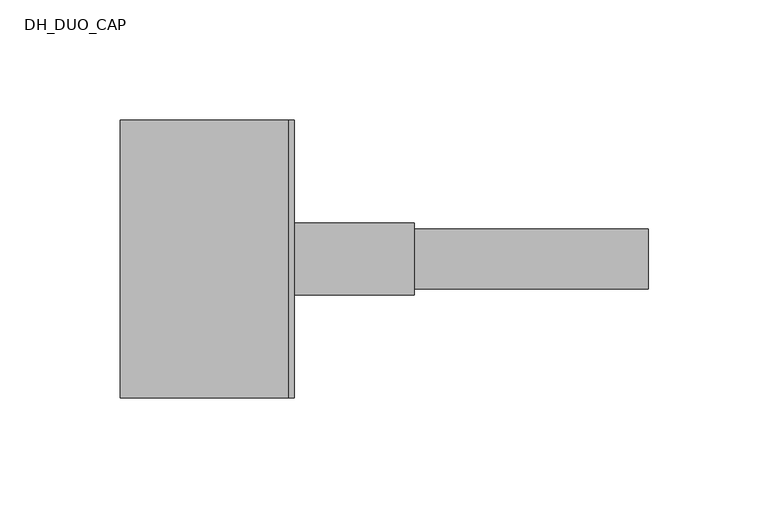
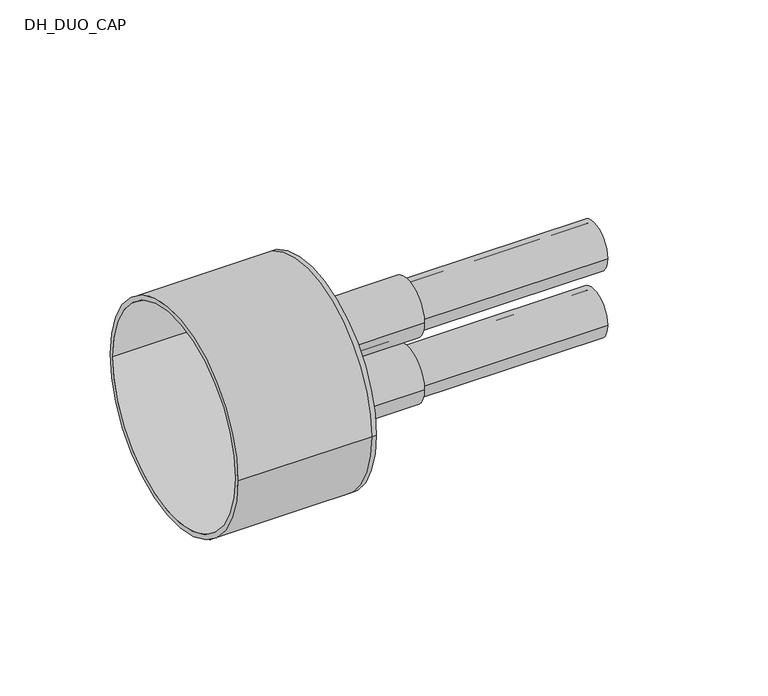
"""IFC4 building model written with IfcOpenShell, lengths in millimetres: pipe fitting geometry, DH_DUO_CAP : RAUTHERMEX DUO + 11 Heating - Rubber Cap."""

from ifc_helpers import new_model, si_unit, point, frame, frame_2d, origin, place, context, project, spatial, polyline, circle_curve, trimmed, segment, composite_curve, outline, extrude, source, transform, mapped, element, save
from ifc_brep_helpers import plane_surface, cylinder_surface, revolved_surface, advanced_brep


def dh_duo_cap_21493ab1(model_context):
    return source(origin(), model_context, "Body", "SolidModel", [
        extrude(outline(composite_curve([segment(trimmed(circle_curve(frame_2d((0.0, -18.5)), 12.5), [point((-12.5, -18.5))], [point((12.5, -18.5))], False, "CARTESIAN"), True, "CONTINUOUS"), segment(trimmed(circle_curve(frame_2d((0.0, -18.5)), 12.5), [point((12.5, -18.5))], [point((-12.5, -18.5))], False, "CARTESIAN"), True, "CONTINUOUS")], self_intersect=False), holes=[composite_curve([segment(trimmed(circle_curve(frame_2d((0.0, -18.5)), 10.2), [point((-10.2, -18.5))], [point((10.2, -18.5))], True, "CARTESIAN"), True, "CONTINUOUS"), segment(trimmed(circle_curve(frame_2d((0.0, -18.5)), 10.2), [point((10.2, -18.5))], [point((-10.2, -18.5))], True, "CARTESIAN"), True, "CONTINUOUS")], self_intersect=False)]), frame((0.0, 0.0, 0.0), z_axis=(1.0, 0.0, 0.0), x_axis=(0.0, 1.0, 0.0)), (0.0, 0.0, 1.0), 150.0),
        extrude(outline(composite_curve([segment(trimmed(circle_curve(frame_2d((0.0, 18.5)), 12.5), [point((-12.5, 18.5))], [point((12.5, 18.5))], False, "CARTESIAN"), True, "CONTINUOUS"), segment(trimmed(circle_curve(frame_2d((0.0, 18.5)), 12.5), [point((12.5, 18.5))], [point((-12.5, 18.5))], False, "CARTESIAN"), True, "CONTINUOUS")], self_intersect=False), holes=[composite_curve([segment(trimmed(circle_curve(frame_2d((0.0, 18.5)), 10.2), [point((-10.2, 18.5))], [point((10.2, 18.5))], True, "CARTESIAN"), True, "CONTINUOUS"), segment(trimmed(circle_curve(frame_2d((0.0, 18.5)), 10.2), [point((10.2, 18.5))], [point((-10.2, 18.5))], True, "CARTESIAN"), True, "CONTINUOUS")], self_intersect=False)]), frame((0.0, 0.0, 0.0), z_axis=(1.0, 0.0, 0.0), x_axis=(0.0, 1.0, 0.0)), (0.0, 0.0, 1.0), 150.0),
        advanced_brep(
        [(-70.0, -58.0, 0.0), (-70.0, 58.0, 0.0), (-70.0, -55.5, 0.0), (-70.0, 55.5, 0.0), (0.0, -55.5, 0.0), (0.0, 55.5, 0.0), (0.0, -58.0, 0.0), (0.0, 58.0, 0.0), (0.0, 12.5, 18.5), (0.0, -12.5, 18.5), (0.0, 12.5, -18.5), (0.0, -12.5, -18.5), (2.5, -58.0, 0.0), (2.5, 58.0, 0.0), (2.5, -12.5, 18.5), (2.5, 12.5, 18.5), (2.5, -12.5, -18.5), (2.5, 12.5, -18.5)],
        [
            (0, 1, circle_curve(frame((-70.0, 0.0, 0.0), z_axis=(-1.0, 0.0, 0.0), x_axis=(0.0, 1.0, 0.0)), 58.0)),
            (1, 0, circle_curve(frame((-70.0, 0.0, 0.0), z_axis=(-1.0, 0.0, 0.0), x_axis=(0.0, 1.0, 0.0)), 58.0)),
            (2, 3, circle_curve(frame((-70.0, 0.0, 0.0), z_axis=(1.0, 0.0, 0.0), x_axis=(0.0, 1.0, 0.0)), 55.5)),
            (3, 2, circle_curve(frame((-70.0, 0.0, 0.0), z_axis=(1.0, 0.0, 0.0), x_axis=(0.0, 1.0, 0.0)), 55.5)),
            (2, 4),
            (4, 5, circle_curve(frame((0.0, 0.0, 0.0), z_axis=(1.0, 0.0, 0.0), x_axis=(0.0, 1.0, 0.0)), 55.5)),
            (5, 3),
            (5, 4, circle_curve(frame((0.0, 0.0, 0.0), z_axis=(1.0, 0.0, 0.0), x_axis=(0.0, 1.0, 0.0)), 55.5)),
            (0, 6),
            (6, 7, circle_curve(frame((0.0, 0.0, 0.0), z_axis=(-1.0, 0.0, 0.0), x_axis=(0.0, 1.0, 0.0)), 58.0)),
            (7, 1),
            (7, 6, circle_curve(frame((0.0, 0.0, 0.0), z_axis=(-1.0, 0.0, 0.0), x_axis=(0.0, 1.0, 0.0)), 58.0)),
            (8, 9, circle_curve(frame((0.0, 0.0, 18.5), z_axis=(1.0, 0.0, 0.0), x_axis=(0.0, 1.0, 0.0)), 12.5)),
            (9, 8, circle_curve(frame((0.0, 0.0, 18.5), z_axis=(1.0, 0.0, 0.0), x_axis=(0.0, 1.0, 0.0)), 12.5)),
            (10, 11, circle_curve(frame((0.0, 0.0, -18.5), z_axis=(1.0, 0.0, 0.0), x_axis=(0.0, 1.0, 0.0)), 12.5)),
            (11, 10, circle_curve(frame((0.0, 0.0, -18.5), z_axis=(1.0, 0.0, 0.0), x_axis=(0.0, 1.0, 0.0)), 12.5)),
            (12, 13, circle_curve(frame((2.5, 0.0, 0.0), z_axis=(1.0, 0.0, 0.0), x_axis=(0.0, 1.0, 0.0)), 58.0)),
            (13, 12, circle_curve(frame((2.5, 0.0, 0.0), z_axis=(1.0, 0.0, 0.0), x_axis=(0.0, 1.0, 0.0)), 58.0)),
            (14, 15, circle_curve(frame((2.5, 0.0, 18.5), z_axis=(-1.0, 0.0, 0.0), x_axis=(0.0, 1.0, 0.0)), 12.5)),
            (15, 14, circle_curve(frame((2.5, 0.0, 18.5), z_axis=(-1.0, 0.0, 0.0), x_axis=(0.0, 1.0, 0.0)), 12.5)),
            (16, 17, circle_curve(frame((2.5, 0.0, -18.5), z_axis=(-1.0, 0.0, 0.0), x_axis=(0.0, 1.0, 0.0)), 12.5)),
            (17, 16, circle_curve(frame((2.5, 0.0, -18.5), z_axis=(-1.0, 0.0, 0.0), x_axis=(0.0, 1.0, 0.0)), 12.5)),
            (13, 7),
            (6, 12),
            (8, 15),
            (14, 9),
            (10, 17),
            (16, 11),
        ],
        [
            plane_surface(frame((-70.0, 0.0, 0.0), z_axis=(-1.0, 0.0, 0.0), x_axis=(0.0, 0.0, 1.0))),
            revolved_surface(polyline([(0.0, 55.5, 0.0), (-70.0, 55.5, 0.0)]), (-70.0, 0.0, 0.0), (1.0, 0.0, 0.0)),
            cylinder_surface(frame((-70.0, 0.0, 0.0), z_axis=(-1.0, 0.0, 0.0), x_axis=(0.0, 1.0, 0.0)), 58.0),
            plane_surface(frame((0.0, 0.0, 0.0), z_axis=(-1.0, 0.0, 0.0), x_axis=(0.0, 0.0, 1.0))),
            plane_surface(frame((2.5, 0.0, 0.0), z_axis=(1.0, 0.0, 0.0), x_axis=(0.0, 0.0, 1.0))),
            cylinder_surface(frame((0.0, 0.0, 0.0), z_axis=(-1.0, 0.0, 0.0), x_axis=(0.0, 1.0, 0.0)), 58.0),
            revolved_surface(polyline([(0.0, 12.5, 18.5), (2.5, 12.5, 18.5)]), (0.0, 0.0, 18.5), (-1.0, 0.0, 0.0)),
            revolved_surface(polyline([(0.0, 12.5, -18.5), (2.5, 12.5, -18.5)]), (0.0, 0.0, -18.5), (-1.0, 0.0, 0.0)),
        ],
        [
            (0, [[1, 2], [3, 4]]),
            (1, [[-3, 5, 6, 7]]),
            (1, [[-4, -7, 8, -5]]),
            (2, [[-1, 9, 10, 11]]),
            (2, [[-2, -11, 12, -9]]),
            (3, [[-6, -8], [13, 14], [15, 16]]),
            (4, [[17, 18], [19, 20], [21, 22]]),
            (5, [[-18, 23, -10, 24]]),
            (5, [[-17, -24, -12, -23]]),
            (6, [[25, -19, 26, -13]]),
            (6, [[-25, -14, -26, -20]]),
            (7, [[27, -21, 28, -15]]),
            (7, [[-27, -16, -28, -22]]),
        ],
    ),
        extrude(outline(composite_curve([segment(trimmed(circle_curve(frame_2d((0.0, -18.5)), 15.0), [point((-15.0, -18.5))], [point((15.0, -18.5))], False, "CARTESIAN"), True, "CONTINUOUS"), segment(trimmed(circle_curve(frame_2d((0.0, -18.5)), 15.0), [point((15.0, -18.5))], [point((-15.0, -18.5))], False, "CARTESIAN"), True, "CONTINUOUS")], self_intersect=False), holes=[composite_curve([segment(trimmed(circle_curve(frame_2d((0.0, -18.5)), 12.5), [point((-12.5, -18.5))], [point((12.5, -18.5))], True, "CARTESIAN"), True, "CONTINUOUS"), segment(trimmed(circle_curve(frame_2d((0.0, -18.5)), 12.5), [point((12.5, -18.5))], [point((-12.5, -18.5))], True, "CARTESIAN"), True, "CONTINUOUS")], self_intersect=False)]), frame((2.5, 0.0, 0.0), z_axis=(1.0, 0.0, 0.0), x_axis=(0.0, 1.0, 0.0)), (0.0, 0.0, 1.0), 50.0),
        extrude(outline(composite_curve([segment(trimmed(circle_curve(frame_2d((0.0, 18.5)), 15.0), [point((-15.0, 18.5))], [point((15.0, 18.5))], False, "CARTESIAN"), True, "CONTINUOUS"), segment(trimmed(circle_curve(frame_2d((0.0, 18.5)), 15.0), [point((15.0, 18.5))], [point((-15.0, 18.5))], False, "CARTESIAN"), True, "CONTINUOUS")], self_intersect=False), holes=[composite_curve([segment(trimmed(circle_curve(frame_2d((0.0, 18.5)), 12.5), [point((-12.5, 18.5))], [point((12.5, 18.5))], True, "CARTESIAN"), True, "CONTINUOUS"), segment(trimmed(circle_curve(frame_2d((0.0, 18.5)), 12.5), [point((12.5, 18.5))], [point((-12.5, 18.5))], True, "CARTESIAN"), True, "CONTINUOUS")], self_intersect=False)]), frame((2.5, 0.0, 0.0), z_axis=(1.0, 0.0, 0.0), x_axis=(0.0, 1.0, 0.0)), (0.0, 0.0, 1.0), 50.0),
    ])


if __name__ == "__main__":
    model = new_model("IFC4")
    model_context = context("Model", 3, world=origin())
    ifc_project = project(units=[si_unit("LENGTHUNIT", "METRE", prefix="MILLI")], contexts=[model_context])
    site = spatial("IfcSite", under=ifc_project)
    building = spatial("IfcBuilding", under=site)
    placement = place(None, origin())
    dh_duo_cap_shape = dh_duo_cap_21493ab1(model_context)
    element("IfcPipeFitting", 1, ObjectType="DH_DUO_CAP : RAUTHERMEX DUO + 11 Heating - Rubber Cap", at=placement, inside=building, context=model_context, shape_type="MappedRepresentation", body=[
        mapped(dh_duo_cap_shape, transform((0.0, 0.0, 0.0), x_axis=(1.0, 0.0, 0.0), y_axis=(0.0, 1.0, 0.0), z_axis=(0.0, 0.0, 1.0))),
    ])
    save(model, "model.ifc")
